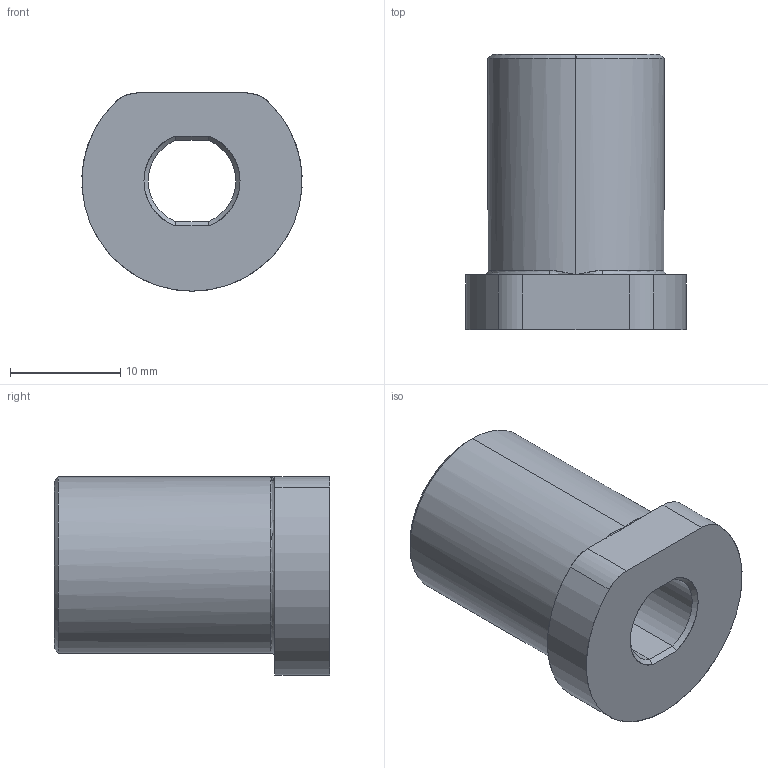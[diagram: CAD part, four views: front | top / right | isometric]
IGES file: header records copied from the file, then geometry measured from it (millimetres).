
Start section: SolidWorks IGES file using analytic representation for surfaces
Global section: file name: C:\Users\365admin\AppData\Local\Temp\InFlowXlateWorking\FCRG-40.igs; native system: SolidWorks 2017; preprocessor: SolidWorks 2017; author: 365admin; date: 190503.082628; units: inch
Bounding box: 19.97 x 24.99 x 17.99 mm (x, y, z)
Surface area: 2400.9 mm2 (no closed solid volume)
Topology: 0 solids, 0 shells, 28 faces, 326 edges, 324 vertices
Faces by surface type: revolution 14, bspline 14
